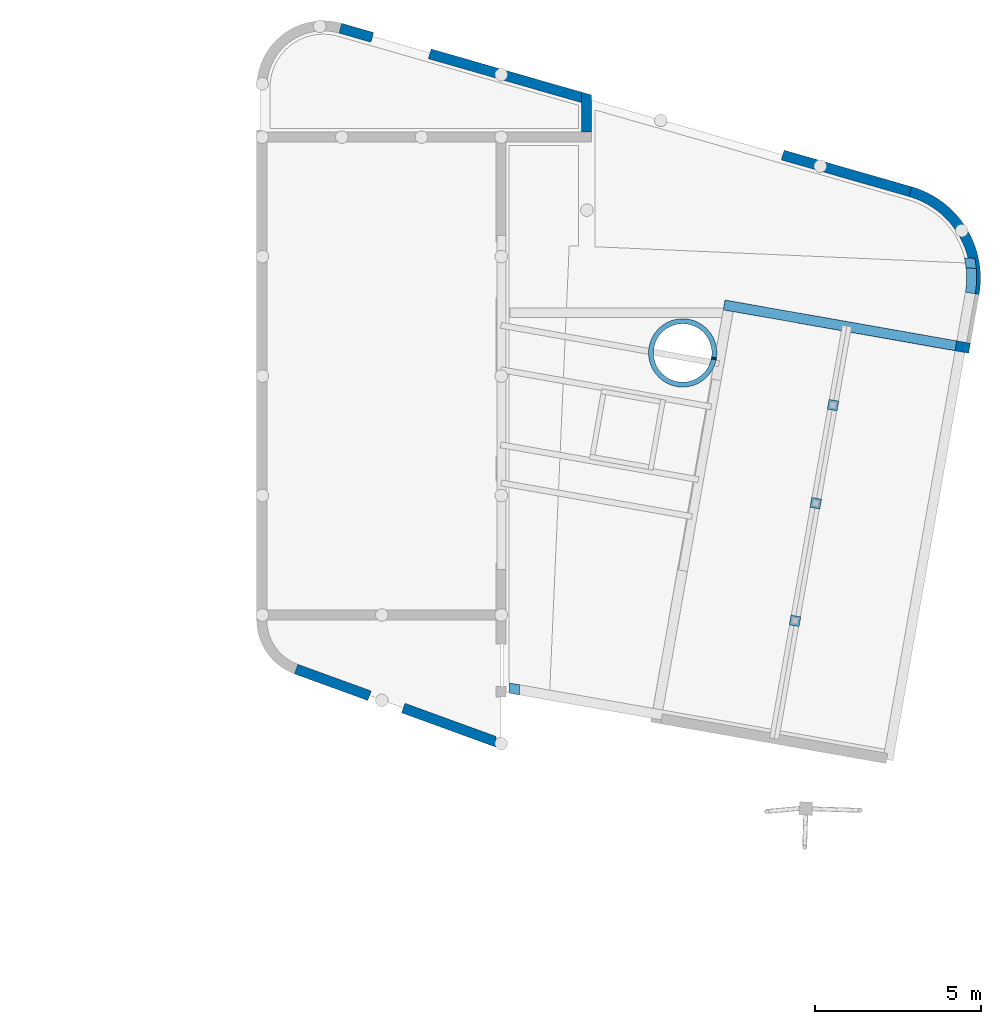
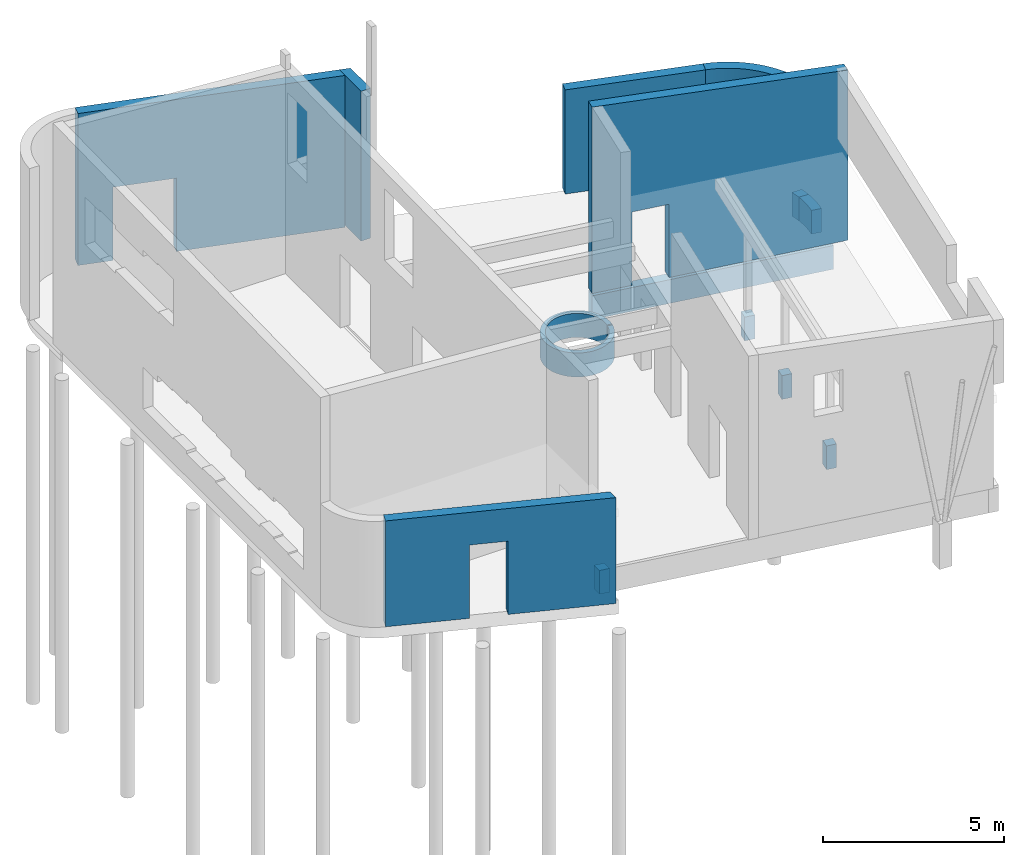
# One storey, part 3 of 3: 15 walls, 3 openings.
"""IFC2X3 building model written with IfcOpenShell, lengths in millimetres."""

from ifc_helpers import new_model, entity, si_unit, converted_unit, derived_unit, direction, frame, frame_2d, origin, place, context, subcontext, project, spatial, polyline, circle_curve, parameter, trimmed, segment, composite_curve, rectangle, outline, extrude, clip, bounded_halfspace, faceted_brep, material, layer, layer_set, layer_usage, type_object, element, save


model = new_model("IFC2X3")

# Units and contexts
model_context = context("Model", 3, precision=0.01, world=origin(), true_north=direction((6.12303176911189e-17, 1.0)))
context_of_model = context(None, 3, precision=0.01, world=origin(), true_north=direction((6.12303176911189e-17, 1.0)))
body_context = subcontext(model_context, "Body", "Model", "MODEL_VIEW")
ifc_project = project(units=[si_unit("LENGTHUNIT", "METRE", prefix="MILLI"), si_unit("AREAUNIT", "SQUARE_METRE"), si_unit("VOLUMEUNIT", "CUBIC_METRE"), converted_unit("PLANEANGLEUNIT", "DEGREE", entity("IfcRatioMeasure", 0.0174532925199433), si_unit("PLANEANGLEUNIT", "RADIAN"), dimensions=[0, 0, 0, 0, 0, 0, 0]), si_unit("MASSUNIT", "GRAM", prefix="KILO"), derived_unit("MASSDENSITYUNIT", [(si_unit("MASSUNIT", "GRAM", prefix="KILO"), 1), (si_unit("LENGTHUNIT", "METRE"), -3)]), derived_unit("MOMENTOFINERTIAUNIT", [(si_unit("LENGTHUNIT", "METRE"), 4)]), si_unit("TIMEUNIT", "SECOND"), si_unit("FREQUENCYUNIT", "HERTZ"), si_unit("THERMODYNAMICTEMPERATUREUNIT", "DEGREE_CELSIUS"), derived_unit("THERMALTRANSMITTANCEUNIT", [(si_unit("MASSUNIT", "GRAM", prefix="KILO"), 1), (si_unit("THERMODYNAMICTEMPERATUREUNIT", "KELVIN"), -1), (si_unit("TIMEUNIT", "SECOND"), -3)]), derived_unit("VOLUMETRICFLOWRATEUNIT", [(si_unit("LENGTHUNIT", "METRE"), 3), (si_unit("TIMEUNIT", "SECOND"), -1)]), si_unit("ELECTRICCURRENTUNIT", "AMPERE"), si_unit("ELECTRICVOLTAGEUNIT", "VOLT"), si_unit("POWERUNIT", "WATT"), si_unit("FORCEUNIT", "NEWTON", prefix="KILO"), si_unit("ILLUMINANCEUNIT", "LUX"), si_unit("LUMINOUSFLUXUNIT", "LUMEN"), si_unit("LUMINOUSINTENSITYUNIT", "CANDELA"), derived_unit("USERDEFINED", [(si_unit("MASSUNIT", "GRAM", prefix="KILO"), -1), (si_unit("LENGTHUNIT", "METRE"), -2), (si_unit("TIMEUNIT", "SECOND"), 3), (si_unit("LUMINOUSFLUXUNIT", "LUMEN"), 1)]), derived_unit("LINEARVELOCITYUNIT", [(si_unit("LENGTHUNIT", "METRE"), 1), (si_unit("TIMEUNIT", "SECOND"), -1)]), si_unit("PRESSUREUNIT", "PASCAL"), derived_unit("USERDEFINED", [(si_unit("LENGTHUNIT", "METRE"), -2), (si_unit("MASSUNIT", "GRAM", prefix="KILO"), 1), (si_unit("TIMEUNIT", "SECOND"), -2)]), derived_unit("LINEARFORCEUNIT", [(si_unit("MASSUNIT", "GRAM", prefix="KILO"), 1), (si_unit("LENGTHUNIT", "METRE"), 1), (si_unit("TIMEUNIT", "SECOND"), -2), (si_unit("LENGTHUNIT", "METRE"), -1)]), derived_unit("PLANARFORCEUNIT", [(si_unit("MASSUNIT", "GRAM", prefix="KILO"), 1), (si_unit("LENGTHUNIT", "METRE"), 1), (si_unit("TIMEUNIT", "SECOND"), -2), (si_unit("LENGTHUNIT", "METRE"), -2)])], contexts=[model_context, context_of_model])

# Site, building, storey
site_placement = place(None, origin())
site = spatial("IfcSite", under=ifc_project, at=site_placement, Name="Default", CompositionType="ELEMENT")
building_placement = place(site_placement, origin())
building = spatial("IfcBuilding", under=site, at=building_placement, Name="IFc", CompositionType="ELEMENT")
storey_placement = place(building_placement, frame((0.0, 0.0, -70.0)))
storey = spatial("IfcBuildingStorey", under=building, at=storey_placement, Name="00 begane grond b.k. ruwe vloer", CompositionType="ELEMENT", Elevation=-70.0)

# Walls
ifc_material_1 = material(Name="IMd_underlayment")
ifc_layer_1 = layer(ifc_material_1, 18.0)
ifc_material_2 = material(Name="IMd_hout")
ifc_layer_2 = layer(ifc_material_2, 270.0)
ifc_layer_3 = layer(ifc_material_1, 18.0)
ifc_layer_set_1 = layer_set([ifc_layer_1, ifc_layer_2, ifc_layer_3], Name="Basic Wall:NLRS_28_WA HSB_d=271")
ifc_layer_usage_1 = layer_usage(ifc_layer_set_1, "AXIS2", "NEGATIVE", 153.0)
wall_type_1 = type_object("IfcWallType", Name="Basic Wall:NLRS_28_WA HSB_d=271", PredefinedType="STANDARD", material=ifc_layer_set_1)
wall_1_placement = place(storey_placement, frame((19759.6696056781, 24550.0, 70.0), z_axis=(0.0, 0.0, 1.0), x_axis=(0.0, 1.0, 0.0)))
element("IfcWallStandardCase", 1, at=wall_1_placement, inside=storey, type_object=wall_type_1, material=ifc_layer_usage_1, Name="Basic Wall:NLRS_28_WA HSB_d=271", ObjectType="Basic Wall:NLRS_28_WA HSB_d=271", context=body_context, shape_type="SweptSolid", body=[
    extrude(outline(polyline([(0.473272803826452, -556.489996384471), (318.816078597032, -556.489996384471), (-12.5768006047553, 598.680518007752), (-306.712550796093, 514.299474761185), (0.473272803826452, -556.489996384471)])), frame((578.936558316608, 0.0, 0.0), z_axis=(0.0, 0.0, 1.0), x_axis=(0.275755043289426, 0.96122794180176, 0.0)), (0.0, 0.0, 1.0), 5049.99999999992),
])
wall_2_placement = place(storey_placement, frame((17077.3165004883, 6159.10750160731, 0.0), z_axis=(0.0, 0.0, 1.0), x_axis=(-0.939722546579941, 0.341937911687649, 0.0)))
element("IfcWall", 2, at=wall_2_placement, inside=storey, type_object=wall_type_1, Name="Basic Wall:NLRS_28_WA HSB_d=271", ObjectType="Basic Wall:NLRS_28_WA HSB_d=271", context=body_context, shape_type="Brep", body=[
    faceted_brep([(111.344567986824, -153.0, 3570.0), (111.344567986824, -153.0, 0.0), (3022.73798114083, -153.0, 0.0), (3022.73798114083, -153.0, 2470.0), (4106.73797699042, -153.0, 2470.0), (4106.73797699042, -153.0, 0.0), (6457.98108461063, -153.0, 0.0), (6457.98108461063, -153.0, 3570.0), (0.0, 153.0, 0.0), (0.0, 153.0, 60.0), (0.0, 153.0, 3560.0), (0.0, 153.0, 3570.0), (6457.98108461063, 153.0, 3570.0), (6457.98108461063, 153.0, 0.0), (4106.73797699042, 153.0, 0.0), (4106.73797699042, 153.0, 2470.0), (3022.73798114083, 153.0, 2470.0), (3022.73798114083, 153.0, 0.0)], [[[0, 1, 2, 3, 4, 5, 6, 7]], [[8, 9, 10, 11, 12, 13, 14, 15, 16, 17]], [[0, 11, 10, 9, 8, 1]], [[6, 5, 14, 13]], [[7, 6, 13, 12]], [[0, 7, 12, 11]], [[2, 1, 8, 17]], [[3, 2, 17, 16]], [[4, 3, 16, 15]], [[5, 4, 15, 14]]]),
])
wall_3_placement = place(storey_placement, frame((19648.8601273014, 25580.4905030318, 0.0), z_axis=(0.0, 0.0, 1.0), x_axis=(-0.961227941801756, 0.27575504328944, 0.0)))
element("IfcWall", 3, at=wall_3_placement, inside=storey, type_object=wall_type_1, Name="Basic Wall:NLRS_28_WA HSB_d=271", ObjectType="Basic Wall:NLRS_28_WA HSB_d=271", context=body_context, shape_type="Brep", body=[
    faceted_brep([(87.7846341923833, -153.0, 0.0), (4802.19558161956, -153.0, 0.0), (4802.19558161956, -153.0, 2470.0), (6602.19558161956, -153.0, 2470.0), (6602.19558161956, -153.0, 0.0), (7603.77169760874, -153.0, 0.0), (7603.77169760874, -153.0, 5120.0), (87.7846341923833, -153.0, 5120.0), (87.7846341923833, -153.0, 70.0), (0.0, 153.0, 0.0), (0.0, 153.0, 5120.0), (7603.77169760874, 153.0, 5120.0), (7603.77169760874, 153.0, 0.0), (6602.19558161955, 153.0, 0.0), (6602.19558161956, 153.0, 2470.0), (4802.19558161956, 153.0, 2470.0), (4802.19558161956, 153.0, 0.0)], [[[0, 1, 2, 3, 4, 5, 6, 7, 8]], [[9, 10, 11, 12, 13, 14, 15, 16]], [[1, 0, 9, 16]], [[6, 5, 12, 11]], [[7, 6, 11, 10]], [[2, 1, 16, 15]], [[3, 2, 15, 14]], [[4, 3, 14, 13]], [[5, 4, 13, 12]], [[0, 8, 7, 10, 9]]]),
])
ifc_layer_usage_2 = layer_usage(ifc_layer_set_1, "AXIS2", "NEGATIVE", 153.0)
wall_4_placement = place(storey_placement, frame((29511.3582669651, 22753.3064815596, 60.0), z_axis=(0.0, 0.0, 1.0), x_axis=(-0.961261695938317, 0.275637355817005, 0.0)))
element("IfcWallStandardCase", 4, at=wall_4_placement, inside=storey, type_object=wall_type_1, material=ifc_layer_usage_2, Name="Basic Wall:NLRS_28_WA HSB_d=271", ObjectType="Basic Wall:NLRS_28_WA HSB_d=271", context=body_context, shape_type="SweptSolid", body=[
    extrude(rectangle(XDim=3999.22918546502, YDim=306.000000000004, at=frame_2d((1999.61459273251, 5.82645043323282e-13), x_axis=(-1.0, 0.0))), origin(), (0.0, 0.0, 1.0), 3509.99999999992),
])

# Wall, opening
ifc_layer_usage_3 = layer_usage(ifc_layer_set_1, "AXIS2", "NEGATIVE", 153.0)
wall_5_placement = place(storey_placement, frame((31298.7644464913, 18034.5306784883, 60.0), z_axis=(0.0, 0.0, 1.0), x_axis=(-0.984807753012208, 0.173648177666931, 0.0)))
wall_5 = element("IfcWallStandardCase", 5, at=wall_5_placement, inside=storey, type_object=wall_type_1, material=ifc_layer_usage_3, Name="Basic Wall:NLRS_28_WA HSB_d=271", ObjectType="Basic Wall:NLRS_28_WA HSB_d=271", context=body_context, shape_type="Clipping", body=[
    clip(extrude(rectangle(XDim=7511.58881505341, YDim=306.0, at=frame_2d((3755.7944075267, 0.0), x_axis=(-1.0, 0.0))), origin(), (0.0, 0.0, 1.0), 6284.69975053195), bounded_halfspace(frame((0.0101037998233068, -153.0, 5738.6161692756), z_axis=(0.0725054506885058, -0.00762051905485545, -0.997338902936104), x_axis=(0.991875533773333, -0.104248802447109, 0.0729048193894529)), True, frame((0.0101037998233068, -153.0, 5738.6161692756)), polyline([(0.0, 0.0), (7511.57871125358, 0.0), (7511.57871125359, 306.0), (7205.57871125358, 306.0), (305.989896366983, 306.0), (-0.0101037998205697, 306.0), (0.0, 0.0)]))),
])
opening_1_placement = place(wall_5_placement, origin())
element("IfcOpeningElement", 6, at=opening_1_placement, cuts=wall_5, Name="Basic Wall:NLRS_28_WA HSB_d=271", ObjectType="Opening", context=body_context, shape_type="SweptSolid", body=[
    extrude(rectangle(XDim=2470.00000000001, YDim=1083.99999999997, at=frame_2d((0.0, 0.0), x_axis=(0.0, 1.0))), frame((5795.27387890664, 153.0, 1235.0), z_axis=(0.0, -1.0, 0.0), x_axis=(1.0, 0.0, 0.0)), (0.0, 0.0, 1.0), 306.0),
])

# Walls
ifc_layer_usage_4 = layer_usage(ifc_layer_set_1, "AXIS2", "POSITIVE", -153.0)
wall_6_placement = place(storey_placement, frame((29511.3582669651, 22753.3064815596, 60.0)))
element("IfcWallStandardCase", 7, at=wall_6_placement, inside=storey, type_object=wall_type_1, material=ifc_layer_usage_4, Name="Basic Wall:NLRS_28_WA HSB_d=271", ObjectType="Basic Wall:NLRS_28_WA HSB_d=271", context=body_context, shape_type="SweptSolid", body=[
    extrude(outline(composite_curve([segment(trimmed(circle_curve(frame_2d((-745.960612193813, -2604.27029416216), x_axis=(1.0, 0.0)), 2862.0), [parameter(350.000000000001)], [parameter(74.016302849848)], True, "PARAMETER"), True, "CONTINUOUS"), segment(polyline([(42.1306658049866, 147.085033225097), (-42.130665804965, -147.085033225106)]), True, "CONTINUOUS"), segment(trimmed(circle_curve(frame_2d((-745.960612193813, -2604.27029416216), x_axis=(1.0, 0.0)), 2556.0), [parameter(350.000000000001)], [parameter(74.016302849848)], True, "PARAMETER"), False, "CONTINUOUS"), segment(polyline([(1771.2080045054, -3048.11503627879), (2072.55917692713, -3101.25137864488)]), True, "CONTINUOUS")], self_intersect=False)), origin(), (0.0, 0.0, 1.0), 3509.99999999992),
])
ifc_material_3 = material(Name="IMd_beton_prefab")
ifc_layer_4 = layer(ifc_material_3, 300.0)
ifc_layer_set_2 = layer_set([ifc_layer_4], Name="Basic Wall:NLRS_16_WA Funderingsbalk_beton_prefab_300x800")
ifc_layer_usage_5 = layer_usage(ifc_layer_set_2, "AXIS2", "NEGATIVE", 150.0)
wall_type_2 = type_object("IfcWallType", Name="Basic Wall:NLRS_16_WA Funderingsbalk_beton_prefab_300x800", PredefinedType="STANDARD", material=ifc_layer_set_2)
wall_7_placement = place(storey_placement, frame((23904.2418366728, 19338.3474189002, -820.0), z_axis=(0.0, 0.0, 1.0), x_axis=(0.984850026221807, -0.173408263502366, 0.0)))
element("IfcWallStandardCase", 8, at=wall_7_placement, inside=storey, type_object=wall_type_2, material=ifc_layer_usage_5, Name="Basic Wall:NLRS_16_WA Funderingsbalk_beton_prefab_300x800", ObjectType="Basic Wall:NLRS_16_WA Funderingsbalk_beton_prefab_300x800", context=body_context, shape_type="SweptSolid", body=[
    extrude(outline(polyline([(7090.55211074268, -150.0), (7090.61528805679, 150.0), (0.0, 150.0), (0.0, -86.0273430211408), (0.0, -150.0), (300.0, -150.0), (7090.55211074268, -150.0)])), origin(), (0.0, 0.0, 1.0), 800.0),
])
ifc_layer_usage_6 = layer_usage(ifc_layer_set_2, "AXIS2", "POSITIVE", -150.0)
wall_8_placement = place(storey_placement, frame((31344.3780423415, 20469.9798954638, -820.0)))
element("IfcWallStandardCase", 9, at=wall_8_placement, inside=storey, type_object=wall_type_2, material=ifc_layer_usage_6, Name="Basic Wall:NLRS_16_WA Funderingsbalk_beton_prefab_300x800", ObjectType="Basic Wall:NLRS_16_WA Funderingsbalk_beton_prefab_300x800", context=body_context, shape_type="SweptSolid", body=[
    extrude(outline(composite_curve([segment(trimmed(circle_curve(frame_2d((-2692.23049711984, -300.958386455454), x_axis=(1.0, 0.0)), 2859.0), [parameter(350.001891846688)], [parameter(5.44015134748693)], True, "PARAMETER"), True, "CONTINUOUS"), segment(polyline([(153.891913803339, -29.908165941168), (-149.07145609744, -16.6643624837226)]), True, "CONTINUOUS"), segment(trimmed(circle_curve(frame_2d((-2692.23049711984, -300.958386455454), x_axis=(1.0, 0.0)), 2559.0), [parameter(350.001891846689)], [parameter(6.37848459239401)], True, "PARAMETER"), False, "CONTINUOUS"), segment(polyline([(-172.09278604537, -745.24086103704), (123.351259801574, -797.325559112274)]), True, "CONTINUOUS")], self_intersect=False)), origin(), (0.0, 0.0, 1.0), 800.0),
])
ifc_layer_usage_7 = layer_usage(ifc_layer_set_2, "AXIS2", "NEGATIVE", 150.0)
wall_9_placement = place(storey_placement, frame((27158.8635610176, 16172.1722400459, -820.0), z_axis=(0.0, 0.0, 1.0), x_axis=(0.173408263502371, 0.984850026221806, 0.0)))
element("IfcWallStandardCase", 10, at=wall_9_placement, inside=storey, type_object=wall_type_2, material=ifc_layer_usage_7, Name="Basic Wall:NLRS_16_WA Funderingsbalk_beton_prefab_300x800", ObjectType="Basic Wall:NLRS_16_WA Funderingsbalk_beton_prefab_300x800", context=body_context, shape_type="SweptSolid", body=[
    extrude(rectangle(XDim=299.999999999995, YDim=299.999999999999, at=frame_2d((149.999999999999, 8.81072992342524e-13), x_axis=(-1.0, 0.0))), origin(), (0.0, 0.0, 1.0), 800.0),
])
ifc_layer_usage_8 = layer_usage(ifc_layer_set_2, "AXIS2", "NEGATIVE", 150.0)
wall_10_placement = place(storey_placement, frame((26637.9190280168, 13217.7489810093, -820.0), z_axis=(0.0, 0.0, 1.0), x_axis=(0.173408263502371, 0.984850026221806, 0.0)))
element("IfcWallStandardCase", 11, at=wall_10_placement, inside=storey, type_object=wall_type_2, material=ifc_layer_usage_8, Name="Basic Wall:NLRS_16_WA Funderingsbalk_beton_prefab_300x800", ObjectType="Basic Wall:NLRS_16_WA Funderingsbalk_beton_prefab_300x800", context=body_context, shape_type="SweptSolid", body=[
    extrude(rectangle(XDim=300.000000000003, YDim=300.0, at=frame_2d((150.000000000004, 1.63424829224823e-12), x_axis=(-1.0, 0.0))), origin(), (0.0, 0.0, 1.0), 800.0),
])
ifc_layer_usage_9 = layer_usage(ifc_layer_set_2, "AXIS2", "NEGATIVE", 150.0)
wall_11_placement = place(storey_placement, frame((26012.7855884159, 9672.44107016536, -820.0), z_axis=(0.0, 0.0, 1.0), x_axis=(0.173408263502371, 0.984850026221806, 0.0)))
element("IfcWallStandardCase", 12, at=wall_11_placement, inside=storey, type_object=wall_type_2, material=ifc_layer_usage_9, Name="Basic Wall:NLRS_16_WA Funderingsbalk_beton_prefab_300x800", ObjectType="Basic Wall:NLRS_16_WA Funderingsbalk_beton_prefab_300x800", context=body_context, shape_type="SweptSolid", body=[
    extrude(rectangle(XDim=299.999999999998, YDim=299.999999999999, at=frame_2d((150.000000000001, 1.16529008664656e-12), x_axis=(-1.0, 0.0))), origin(), (0.0, 0.0, 1.0), 800.0),
])

# Wall, opening
ifc_layer_usage_10 = layer_usage(ifc_layer_set_2, "AXIS2", "NEGATIVE", 150.0)
wall_12_placement = place(storey_placement, frame((31139.364782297, 20605.9042360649, -820.0), z_axis=(0.0, 0.0, 1.0), x_axis=(0.999045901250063, -0.0436724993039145, 0.0)))
wall_12 = element("IfcWallStandardCase", 13, at=wall_12_placement, inside=storey, type_object=wall_type_2, material=ifc_layer_usage_10, Name="Basic Wall:NLRS_16_WA Funderingsbalk_beton_prefab_300x800", ObjectType="Basic Wall:NLRS_16_WA Funderingsbalk_beton_prefab_300x800", context=body_context, shape_type="SweptSolid", body=[
    extrude(outline(composite_curve([segment(polyline([(307.452557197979, 150.0), (0.0, 150.0)]), True, "CONTINUOUS"), segment(polyline([(0.0, 150.0), (62.5111492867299, -150.0)]), True, "CONTINUOUS"), segment(polyline([(62.5111492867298, -150.0), (365.805062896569, -150.0)]), True, "CONTINUOUS"), segment(trimmed(circle_curve(frame_2d((-2465.76442562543, -545.08889084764), x_axis=(0.999045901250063, 0.0436724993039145)), 2859.0), [parameter(5.44015134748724)], [parameter(11.5678947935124)], True, "PARAMETER"), True, "CONTINUOUS")], self_intersect=False)), origin(), (0.0, 0.0, 1.0), 800.0),
])
opening_2_placement = place(wall_12_placement, origin())
element("IfcOpeningElement", 14, at=opening_2_placement, cuts=wall_12, Name="Basic Wall:NLRS_16_WA Funderingsbalk_beton_prefab_300x800", ObjectType="Opening", context=body_context, shape_type="SweptSolid", body=[
    extrude(rectangle(XDim=1000.0, YDim=160.0, at=frame_2d((0.0, -3.48165940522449e-13), x_axis=(1.0, 0.0))), frame((8.85226316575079, -284.661057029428, 470.0), z_axis=(-0.203989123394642, 0.978973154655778, 0.0), x_axis=(0.0, 0.0, 1.0)), (0.0, 0.0, 1.0), 454.55791906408),
])

ifc_layer_usage_11 = layer_usage(ifc_layer_set_2, "AXIS2", "NEGATIVE", 150.0)
wall_13_placement = place(storey_placement, frame((17590.4846991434, 7589.21340909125, -820.0), z_axis=(0.0, 0.0, 1.0), x_axis=(0.0, 1.0, 0.0)))
wall_13 = element("IfcWallStandardCase", 15, at=wall_13_placement, inside=storey, type_object=wall_type_2, material=ifc_layer_usage_11, Name="Basic Wall:NLRS_16_WA Funderingsbalk_beton_prefab_300x800", ObjectType="Basic Wall:NLRS_16_WA Funderingsbalk_beton_prefab_300x800", context=body_context, shape_type="SweptSolid", body=[
    extrude(outline(polyline([(357.526077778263, 150.0), (52.8980942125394, 150.0), (0.0, -150.0), (304.627983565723, -150.0), (357.526077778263, 150.0)])), origin(), (0.0, 0.0, 1.0), 800.0),
])
opening_3_placement = place(wall_13_placement, origin())
element("IfcOpeningElement", 16, at=opening_3_placement, cuts=wall_13, Name="Basic Wall:NLRS_16_WA Funderingsbalk_beton_prefab_300x800", ObjectType="Opening", context=body_context, shape_type="SweptSolid", body=[
    extrude(rectangle(XDim=1000.0, YDim=140.0, at=frame_2d((0.0, 7.17648163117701e-13), x_axis=(1.0, 0.0))), frame((-112.122195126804, -382.76263297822, 470.0), z_axis=(0.173648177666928, 0.984807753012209, 0.0), x_axis=(0.0, 0.0, 1.0)), (0.0, 0.0, 1.0), 590.0),
])

# Walls
ifc_layer_5 = layer(ifc_material_3, 150.0)
ifc_layer_set_3 = layer_set([ifc_layer_5], Name="Basic Wall:NLRS_16_WA Funderingsbalk_beton_prefab_150x810")
ifc_layer_usage_12 = layer_usage(ifc_layer_set_3, "AXIS2", "NEGATIVE", 75.0)
wall_type_3 = type_object("IfcWallType", Name="Basic Wall:NLRS_16_WA Funderingsbalk_beton_prefab_150x810", PredefinedType="STANDARD", material=ifc_layer_set_3)
wall_14_placement = place(storey_placement, frame((23598.5390452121, 17750.7490171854, -820.0), z_axis=(0.0, 0.0, 1.0), x_axis=(0.999999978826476, 0.000205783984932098, 0.0)))
element("IfcWallStandardCase", 17, at=wall_14_placement, inside=storey, type_object=wall_type_3, material=ifc_layer_usage_12, Name="Basic Wall:NLRS_16_WA Funderingsbalk_beton_prefab_150x810", ObjectType="Basic Wall:NLRS_16_WA Funderingsbalk_beton_prefab_150x810", context=body_context, shape_type="SweptSolid", body=[
    extrude(outline(composite_curve([segment(trimmed(circle_curve(frame_2d((-944.216718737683, 143.107610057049), x_axis=(1.0, 0.0)), 880.0), [parameter(351.495814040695)], [parameter(348.480604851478)], True, "PARAMETER"), False, "CONTINUOUS"), segment(polyline([(-73.8922642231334, 12.97174307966), (74.1531454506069, -11.2388175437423)]), True, "CONTINUOUS"), segment(polyline([(74.1531454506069, -11.2388175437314), (84.2449452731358, 86.8350087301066)]), True, "CONTINUOUS"), segment(polyline([(84.2449452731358, 86.8350087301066), (84.9143344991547, 185.407435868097)]), True, "CONTINUOUS"), segment(polyline([(84.9143344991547, 185.407435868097), (76.1539194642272, 283.597913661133)]), True, "CONTINUOUS"), segment(polyline([(76.1539194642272, 283.597913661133), (54.8556749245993, 393.615797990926)]), True, "CONTINUOUS"), segment(polyline([(54.8556749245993, 393.615797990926), (21.7263793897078, 500.674290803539)]), True, "CONTINUOUS"), segment(polyline([(21.7263793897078, 500.674290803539), (-22.837873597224, 603.499859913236)]), True, "CONTINUOUS"), segment(polyline([(-22.837873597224, 603.499859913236), (-78.3095257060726, 700.875243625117)]), True, "CONTINUOUS"), segment(polyline([(-78.3095257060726, 700.875243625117), (-144.031895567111, 791.647700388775)]), True, "CONTINUOUS"), segment(polyline([(-144.031895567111, 791.647700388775), (-219.22695266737, 874.742655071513)]), True, "CONTINUOUS"), segment(polyline([(-219.22695266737, 874.742655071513), (-303.004527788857, 949.176419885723)]), True, "CONTINUOUS"), segment(polyline([(-303.004527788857, 949.176419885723), (-394.372850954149, 1014.06783937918)]), True, "CONTINUOUS"), segment(polyline([(-394.372850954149, 1014.06783937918), (-492.250292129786, 1068.6487216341)]), True, "CONTINUOUS"), segment(polyline([(-492.250292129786, 1068.6487216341), (-595.478165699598, 1112.27293218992)]), True, "CONTINUOUS"), segment(polyline([(-595.478165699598, 1112.27293218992), (-702.834447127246, 1144.42404303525)]), True, "CONTINUOUS"), segment(polyline([(-702.834447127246, 1144.42404303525), (-813.048239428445, 1164.72144612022)]), True, "CONTINUOUS"), segment(polyline([(-813.048239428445, 1164.72144612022), (-924.814818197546, 1172.924859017)]), True, "CONTINUOUS"), segment(polyline([(-924.814818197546, 1172.924859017), (-1036.81107708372, 1168.93716939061)]), True, "CONTINUOUS"), segment(polyline([(-1036.81107708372, 1168.93716939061), (-1147.71119087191, 1152.80558460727)]), True, "CONTINUOUS"), segment(polyline([(-1147.71119087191, 1152.80558460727), (-1256.20231074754, 1124.72107287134)]), True, "CONTINUOUS"), segment(polyline([(-1256.20231074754, 1124.72107287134), (-1361.00010594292, 1085.01610250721)]), True, "CONTINUOUS"), segment(polyline([(-1361.00010594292, 1085.01610250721), (-1460.86396778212, 1034.16070614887)]), True, "CONTINUOUS"), segment(polyline([(-1460.86396778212, 1034.16070614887), (-1554.61169613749, 972.756916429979)]), True, "CONTINUOUS"), segment(polyline([(-1554.61169613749, 972.756916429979), (-1641.13349443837, 901.531639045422)]), True, "CONTINUOUS"), segment(polyline([(-1641.13349443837, 901.531639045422), (-1719.40510755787, 821.328047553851)]), True, "CONTINUOUS"), segment(polyline([(-1719.40510755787, 821.328047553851), (-1788.49994705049, 733.095601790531)]), True, "CONTINUOUS"), segment(polyline([(-1788.49994705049, 733.095601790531), (-1847.60006020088, 637.878808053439)]), True, "CONTINUOUS"), segment(polyline([(-1847.60006020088, 637.878808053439), (-1896.00581303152, 536.804854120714)]), True, "CONTINUOUS"), segment(polyline([(-1896.00581303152, 536.804854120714), (-1933.14417264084, 431.070265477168)]), True, "CONTINUOUS"), segment(polyline([(-1933.14417264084, 431.070265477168), (-1958.57549082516, 321.926740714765)]), True, "CONTINUOUS"), segment(polyline([(-1958.57549082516, 321.926740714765), (-1971.99870867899, 210.666333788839)]), True, "CONTINUOUS"), segment(polyline([(-1971.99870867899, 210.666333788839), (-1973.2549205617, 98.6061585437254)]), True, "CONTINUOUS"), segment(polyline([(-1973.2549205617, 98.6061585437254), (-1962.32925523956, -12.9272034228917)]), True, "CONTINUOUS"), segment(polyline([(-1962.32925523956, -12.9272034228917), (-1939.35105193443, -122.613406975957)]), True, "CONTINUOUS"), segment(polyline([(-1939.35105193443, -122.613406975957), (-1904.59232919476, -229.153973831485)]), True, "CONTINUOUS"), segment(polyline([(-1904.59232919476, -229.153973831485), (-1858.46456471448, -331.287664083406)]), True, "CONTINUOUS"), segment(polyline([(-1858.46456471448, -331.287664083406), (-1801.51382422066, -427.805406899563)]), True, "CONTINUOUS"), segment(polyline([(-1801.51382422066, -427.805406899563), (-1734.4142970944, -517.564613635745)]), True, "CONTINUOUS"), segment(polyline([(-1734.4142970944, -517.564613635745), (-1657.96031525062, -599.502703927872)]), True, "CONTINUOUS"), segment(polyline([(-1657.96031525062, -599.502703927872), (-1573.05694975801, -672.649684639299)]), True, "CONTINUOUS"), segment(polyline([(-1573.05694975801, -672.649684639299), (-1480.709296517, -736.139632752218)]), True, "CONTINUOUS"), segment(polyline([(-1480.709296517, -736.139632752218), (-1382.01057783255, -789.220946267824)]), True, "CONTINUOUS"), segment(polyline([(-1382.01057783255, -789.220946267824), (-1278.1292007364, -831.265241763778)]), True, "CONTINUOUS"), segment(polyline([(-1278.1292007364, -831.265241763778), (-1170.29492526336, -861.774793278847)]), True, "CONTINUOUS"), segment(polyline([(-1170.29492526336, -861.774793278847), (-1059.78430642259, -880.388424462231)]), True, "CONTINUOUS"), segment(polyline([(-1059.78430642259, -880.388424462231), (-947.905582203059, -886.885784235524)]), True, "CONTINUOUS"), segment(polyline([(-947.905582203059, -886.885784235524), (-835.983186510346, -881.189955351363)]), True, "CONTINUOUS"), segment(polyline([(-835.983186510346, -881.189955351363), (-725.342070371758, -863.368364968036)]), True, "CONTINUOUS"), segment(polyline([(-725.342070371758, -863.368364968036), (-617.292017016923, -833.63198646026)]), True, "CONTINUOUS"), segment(polyline([(-617.292017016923, -833.63198646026), (-513.112136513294, -792.332841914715)]), True, "CONTINUOUS"), segment(polyline([(-513.112136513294, -792.332841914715), (-414.035723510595, -739.959834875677)]), True, "CONTINUOUS"), segment(polyline([(-414.035723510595, -739.959834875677), (-321.235657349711, -677.132962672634)]), True, "CONTINUOUS"), segment(polyline([(-321.235657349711, -677.132962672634), (-235.810517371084, -604.595976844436)]), True, "CONTINUOUS"), segment(polyline([(-235.810517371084, -604.595976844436), (-158.771577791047, -523.207578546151)]), True, "CONTINUOUS"), segment(polyline([(-158.771577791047, -523.207578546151), (-91.0308361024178, -433.931253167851)]), True, "CONTINUOUS"), segment(polyline([(-91.0308361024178, -433.931253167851), (-33.3959214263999, -337.828124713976)]), True, "CONTINUOUS"), segment(polyline([(-33.3959214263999, -337.828124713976), (8.34877326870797, -248.707376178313)]), True, "CONTINUOUS"), segment(polyline([(8.34877326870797, -248.707376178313), (41.3929359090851, -156.013784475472)]), True, "CONTINUOUS"), segment(polyline([(41.3929359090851, -156.013784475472), (65.443772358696, -60.5727589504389)]), True, "CONTINUOUS"), segment(polyline([(65.4437723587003, -60.5727589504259), (-81.9424174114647, -32.6280700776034)]), True, "CONTINUOUS")], self_intersect=False)), origin(), (0.0, 0.0, 1.0), 810.000000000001),
])
ifc_layer_usage_13 = layer_usage(ifc_layer_set_3, "AXIS2", "NEGATIVE", 75.0)
wall_15_placement = place(storey_placement, frame((23590.1346996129, 17703.2133401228, -820.0), z_axis=(0.0, 0.0, 1.0), x_axis=(0.173648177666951, 0.984807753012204, 0.0)))
element("IfcWallStandardCase", 18, at=wall_15_placement, inside=storey, type_object=wall_type_3, material=ifc_layer_usage_13, Name="Basic Wall:NLRS_16_WA Funderingsbalk_beton_prefab_150x810", ObjectType="Basic Wall:NLRS_16_WA Funderingsbalk_beton_prefab_150x810", context=body_context, shape_type="SweptSolid", body=[
    extrude(outline(polyline([(50.0968158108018, -75.0), (48.200880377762, 75.0), (1.89593543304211, 75.0), (0.0, -75.0), (50.0968158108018, -75.0)])), origin(), (0.0, 0.0, 1.0), 810.0),
])

save(model, "model.ifc")
